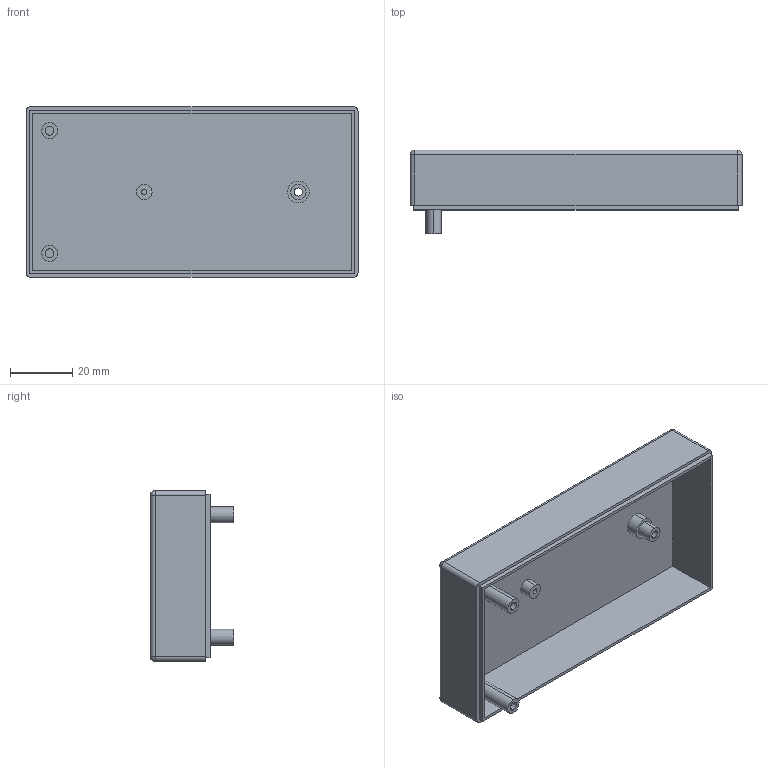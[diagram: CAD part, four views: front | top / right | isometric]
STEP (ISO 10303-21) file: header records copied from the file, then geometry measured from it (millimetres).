
FILE_DESCRIPTION (( 'STEP AP214' ), '1' );
FILE_NAME ('Tapa PP21.STEP', '2018-06-09T08:42:15', ( 'aaa' ), ( '' ), 'SwSTEP 2.0', 'SolidWorks 2013', '' );
FILE_SCHEMA (( 'AUTOMOTIVE_DESIGN' ));
Length unit declared in the file: millimetre
Products named in the file (1): Tapa PP21
Bounding box: 106.8 x 26.8 x 55 mm (x, y, z)
Volume: 24386.5 mm3; surface area: 24460.7 mm2
Topology: 1 solids, 1 shells, 57 faces, 124 edges, 76 vertices
Faces by surface type: cylinder 28, plane 25, sphere 4
Entity records: 1572 total; most frequent: DIRECTION 292, CARTESIAN_POINT 254, ORIENTED_EDGE 240, EDGE_CURVE 120, AXIS2_PLACEMENT_3D 114, VERTEX_POINT 76, EDGE_LOOP 70, VECTOR 64
